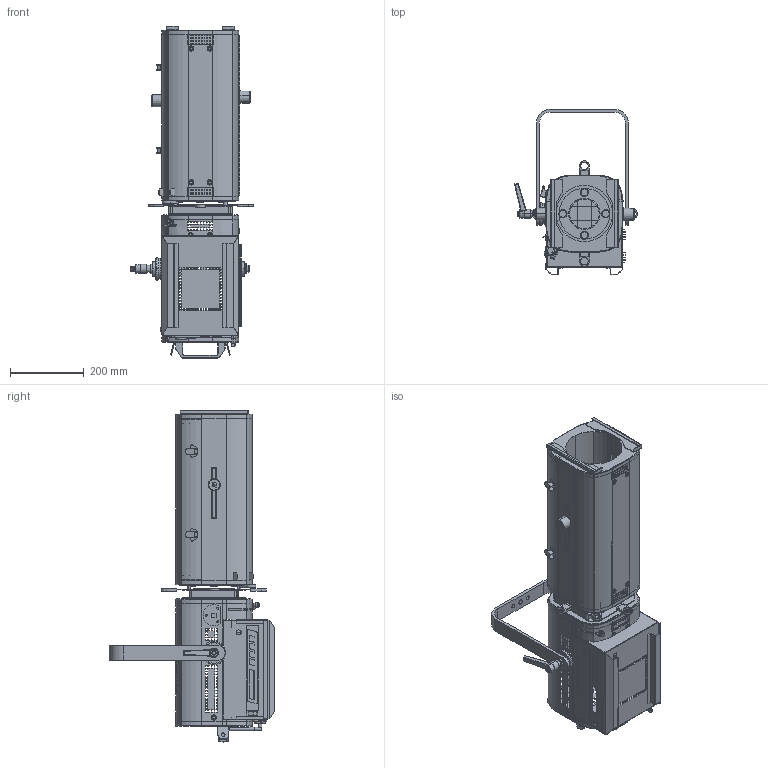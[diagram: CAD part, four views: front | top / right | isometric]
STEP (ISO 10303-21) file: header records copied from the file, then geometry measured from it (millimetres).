
FILE_DESCRIPTION (( 'STEP AP203' ), '1' );
FILE_NAME ('661 - CAD Client.STEP', '2015-09-23T12:56:57', ( '' ), ( '' ), 'SwSTEP 2.0', 'SolidWorks 2015', '' );
FILE_SCHEMA (( 'CONFIG_CONTROL_DESIGN' ));
Length unit declared in the file: millimetre
Products named in the file (5): Trappe ZEP II; Fenetre image; Zoom 6x1; Lanterne ZEP; 661 - CAD Client
Assembly tree (4 placements, depth 2):
  661 - CAD Client
    Lanterne ZEP
    Trappe ZEP II
    Fenetre image
    Zoom 6x1
Bounding box: 332.23 x 447.2 x 897.4 mm (x, y, z)
Surface area: 2200131 mm2 (no closed solid volume)
Topology: 0 solids, 95 shells, 2952 faces, 9112 edges, 6106 vertices
Faces by surface type: plane 2070, cylinder 589, torus 146, cone 94, bspline 44, sphere 9
Entity records: 103230 total; most frequent: CARTESIAN_POINT 20426, DIRECTION 16853, ORIENTED_EDGE 16019, EDGE_CURVE 9106, VECTOR 6775, LINE 6775, VERTEX_POINT 6104, AXIS2_PLACEMENT_3D 5039
